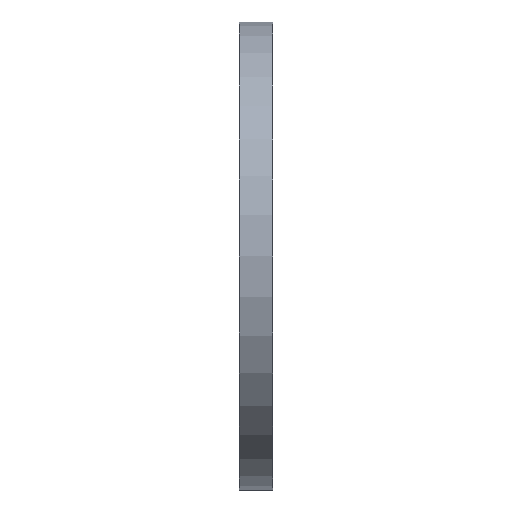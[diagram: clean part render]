
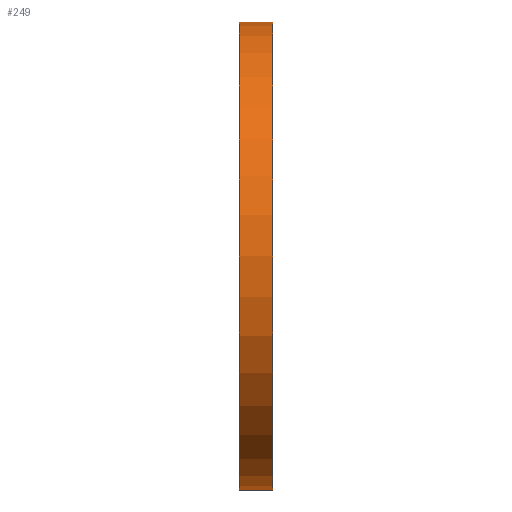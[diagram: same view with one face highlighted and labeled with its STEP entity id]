
A CAD part, left-side view. The second image highlights one B-rep face of the part: STEP entity #249.
In plain terms, the highlighted cylindrical face has radius 112.5 mm (diameter 225 mm), a partial arc.
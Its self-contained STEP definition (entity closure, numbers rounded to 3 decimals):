
#8 = DIRECTION ( 'NONE',  ( 0., 0., -1. ) ) ;
#9 = VERTEX_POINT ( 'NONE', #757 ) ;
#10 = CIRCLE ( 'NONE', #543, 112.5 ) ;
#16 = ORIENTED_EDGE ( 'NONE', *, *, #611, .T. ) ;
#41 = EDGE_CURVE ( 'NONE', #9, #896, #419, .T. ) ;
#44 = CARTESIAN_POINT ( 'NONE',  ( 0., 16., 112.5 ) ) ;
#64 = CARTESIAN_POINT ( 'NONE',  ( 0., 0., -112.5 ) ) ;
#88 = CARTESIAN_POINT ( 'NONE',  ( 0., 0., 0. ) ) ;
#109 = VERTEX_POINT ( 'NONE', #193 ) ;
#121 = CARTESIAN_POINT ( 'NONE',  ( 0., 0., 0. ) ) ;
#177 = EDGE_LOOP ( 'NONE', ( #469, #16, #606, #440 ) ) ;
#193 = CARTESIAN_POINT ( 'NONE',  ( 0., 16., -112.5 ) ) ;
#197 = CARTESIAN_POINT ( 'NONE',  ( 0., 0., -112.5 ) ) ;
#200 = EDGE_CURVE ( 'NONE', #109, #896, #341, .T. ) ;
#209 = DIRECTION ( 'NONE',  ( 0., -1., 0. ) ) ;
#239 = DIRECTION ( 'NONE',  ( 0., 0., -1. ) ) ;
#249 = ADVANCED_FACE ( 'NONE', ( #784 ), #716, .T. ) ;
#339 = VECTOR ( 'NONE', #209, 1000. ) ;
#341 = LINE ( 'NONE', #64, #621 ) ;
#389 = AXIS2_PLACEMENT_3D ( 'NONE', #88, #516, #787 ) ;
#408 = CARTESIAN_POINT ( 'NONE',  ( 0., 0., 112.5 ) ) ;
#419 = CIRCLE ( 'NONE', #510, 112.5 ) ;
#440 = ORIENTED_EDGE ( 'NONE', *, *, #41, .F. ) ;
#469 = ORIENTED_EDGE ( 'NONE', *, *, #900, .F. ) ;
#478 = LINE ( 'NONE', #408, #339 ) ;
#510 = AXIS2_PLACEMENT_3D ( 'NONE', #121, #685, #239 ) ;
#516 = DIRECTION ( 'NONE',  ( 0., -1., 0. ) ) ;
#543 = AXIS2_PLACEMENT_3D ( 'NONE', #664, #644, #8 ) ;
#606 = ORIENTED_EDGE ( 'NONE', *, *, #200, .T. ) ;
#611 = EDGE_CURVE ( 'NONE', #686, #109, #10, .T. ) ;
#621 = VECTOR ( 'NONE', #638, 1000. ) ;
#638 = DIRECTION ( 'NONE',  ( 0., -1., 0. ) ) ;
#644 = DIRECTION ( 'NONE',  ( 0., -1., 0. ) ) ;
#664 = CARTESIAN_POINT ( 'NONE',  ( 0., 16., 0. ) ) ;
#685 = DIRECTION ( 'NONE',  ( 0., -1., 0. ) ) ;
#686 = VERTEX_POINT ( 'NONE', #44 ) ;
#716 = CYLINDRICAL_SURFACE ( 'NONE', #389, 112.5 ) ;
#757 = CARTESIAN_POINT ( 'NONE',  ( 0., 0., 112.5 ) ) ;
#784 = FACE_OUTER_BOUND ( 'NONE', #177, .T. ) ;
#787 = DIRECTION ( 'NONE',  ( 0., 0., -1. ) ) ;
#896 = VERTEX_POINT ( 'NONE', #197 ) ;
#900 = EDGE_CURVE ( 'NONE', #686, #9, #478, .T. ) ;
